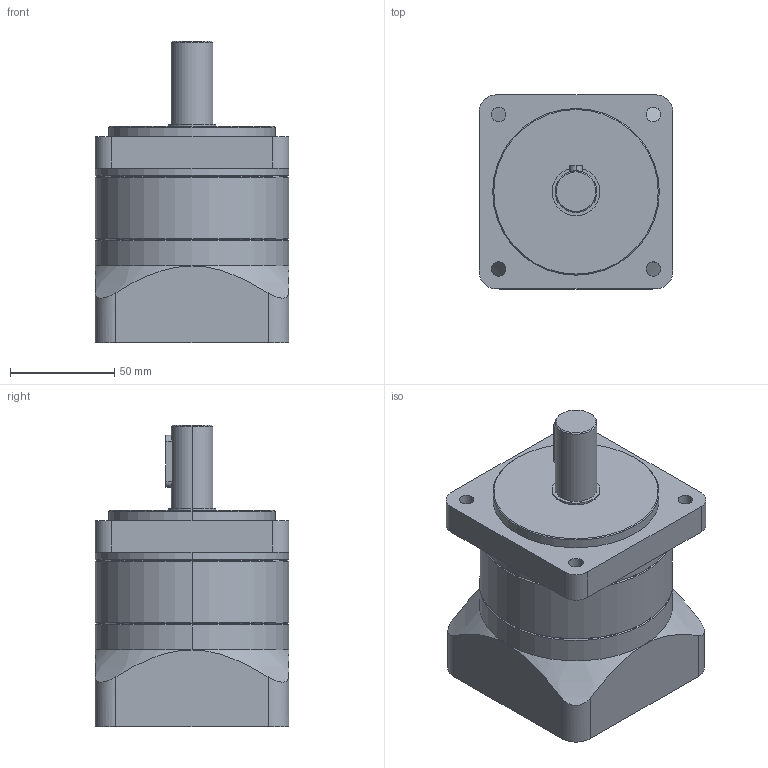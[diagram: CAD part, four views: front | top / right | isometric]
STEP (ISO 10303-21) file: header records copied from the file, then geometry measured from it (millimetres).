
FILE_DESCRIPTION (( 'STEP AP214' ), '1' );
FILE_NAME ('S93-L1.STEP', '2013-04-12T01:51:49', ( 'CPC-PC' ), ( '' ), 'SwSTEP 2.0', 'SolidWorks 2009', '' );
FILE_SCHEMA (( 'AUTOMOTIVE_DESIGN' ));
Length unit declared in the file: millimetre
Products named in the file (4): S93-L1; 93B; 93R; 93F
Assembly tree (3 placements, depth 2):
  S93-L1
    93B
    93R
    93F
Bounding box: 93 x 93 x 145 mm (x, y, z)
Volume: 748993.2 mm3; surface area: 88091 mm2
Topology: 3 solids, 3 shells, 89 faces, 195 edges, 122 vertices
Faces by surface type: cylinder 43, plane 30, cone 16
Entity records: 2850 total; most frequent: CARTESIAN_POINT 703, DIRECTION 465, ORIENTED_EDGE 390, EDGE_CURVE 195, AXIS2_PLACEMENT_3D 190, VERTEX_POINT 122, EDGE_LOOP 107, CIRCLE 95
